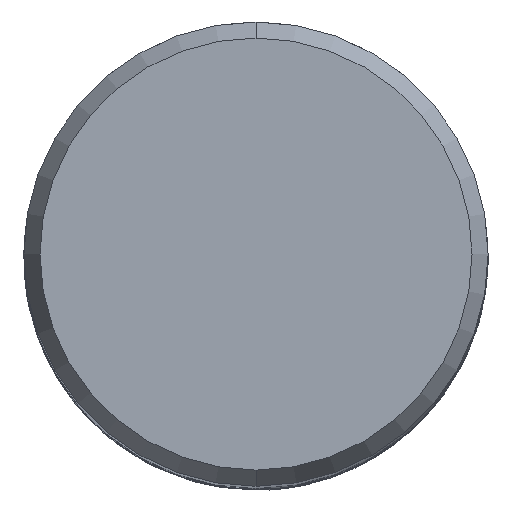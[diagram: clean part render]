
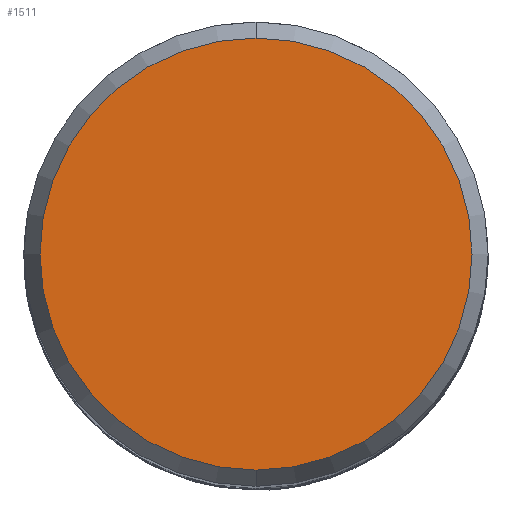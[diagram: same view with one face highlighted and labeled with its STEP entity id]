
A CAD part, top view. The second image highlights one B-rep face of the part: STEP entity #1511.
In plain terms, the highlighted planar face has unit normal (0, 0, 1).
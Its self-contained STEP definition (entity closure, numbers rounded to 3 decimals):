
#1231=VERTEX_POINT('',#2349);
#1371=EDGE_CURVE('',#1389,#1231,#2507,.T.);
#1387=EDGE_CURVE('',#1231,#1389,#2523,.T.);
#1389=VERTEX_POINT('',#2525);
#1511=ADVANCED_FACE('',(#2658),#2659,.T.);
#2349=CARTESIAN_POINT('',(0.,-9.307,0.0));
#2507=CIRCLE('',#13936,9.307);
#2523=CIRCLE('',#13995,9.307);
#2525=CARTESIAN_POINT('',(0.0,9.307,0.0));
#2658=FACE_OUTER_BOUND('',#14881,.T.);
#2659=PLANE('',#14882);
#13936=AXIS2_PLACEMENT_3D('',#17357,#17358,#17359);
#13995=AXIS2_PLACEMENT_3D('',#17366,#17367,#17368);
#14881=EDGE_LOOP('',(#17508,#17509));
#14882=AXIS2_PLACEMENT_3D('',#17510,#17511,#17512);
#17357=CARTESIAN_POINT('',(0.0,0.0,0.0));
#17358=DIRECTION('',(0.0,0.0,-1.0));
#17359=DIRECTION('',(0.0,1.0,0.0));
#17366=CARTESIAN_POINT('',(0.0,0.0,0.0));
#17367=DIRECTION('',(0.0,0.0,-1.0));
#17368=DIRECTION('',(0.0,1.0,0.0));
#17508=ORIENTED_EDGE('',*,*,#1371,.F.);
#17509=ORIENTED_EDGE('',*,*,#1387,.F.);
#17510=CARTESIAN_POINT('',(0.0,4.654,0.0));
#17511=DIRECTION('',(-0.0,0.0,1.0));
#17512=DIRECTION('',(0.0,-1.0,0.0));
